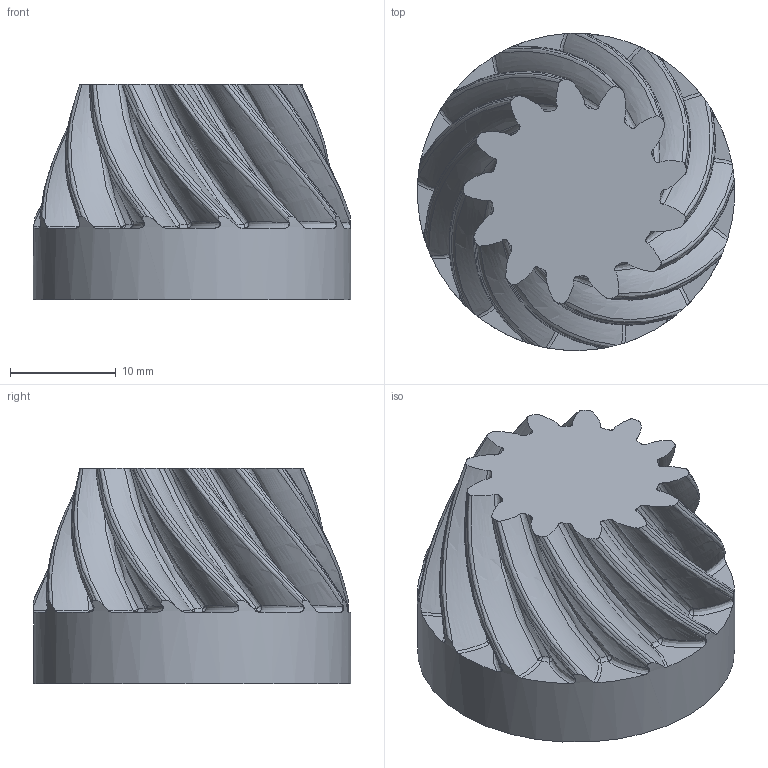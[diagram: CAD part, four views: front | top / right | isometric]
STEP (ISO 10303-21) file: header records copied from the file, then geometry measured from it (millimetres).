
FILE_DESCRIPTION(/* description */ (''),/* implementation_level */ '2;1');
FILE_NAME(/* name */ '',/* time_stamp */ '2017-03-16T13:21:49+08:00',/* author */ (''),/* organization */ (''),/* preprocessor_version */ 'ST-DEVELOPER v14',/* originating_system */ 'SIEMENS PLM Software NX 8.0',/* authorisation */ '');
FILE_SCHEMA (('AP203_CONFIGURATION_CONTROLLED_3D_DESIGN_OF_MECHANICAL_PARTS_AND_ASSEMBLIES_MIM_LF { 1 0 10303 403 2 1 2}'));
Products named in the file (1): henr24FC63ACvua8
Bounding box: 30 x 30 x 20.38 mm (x, y, z)
Volume: 10389.7 mm3; surface area: 3659.4 mm2
Topology: 1 solids, 1 shells, 198 faces, 523 edges, 301 vertices
Faces by surface type: bspline 117, cone 26, sphere 26, plane 15, torus 13, cylinder 1
Full cylindrical faces by diameter (mm): 30 x1
Entity records: 37472 total; most frequent: CARTESIAN_POINT 33637, ORIENTED_EDGE 990, DIRECTION 504, EDGE_CURVE 495, B_SPLINE_CURVE_WITH_KNOTS 325, VERTEX_POINT 300, AXIS2_PLACEMENT_3D 252, EDGE_LOOP 199
